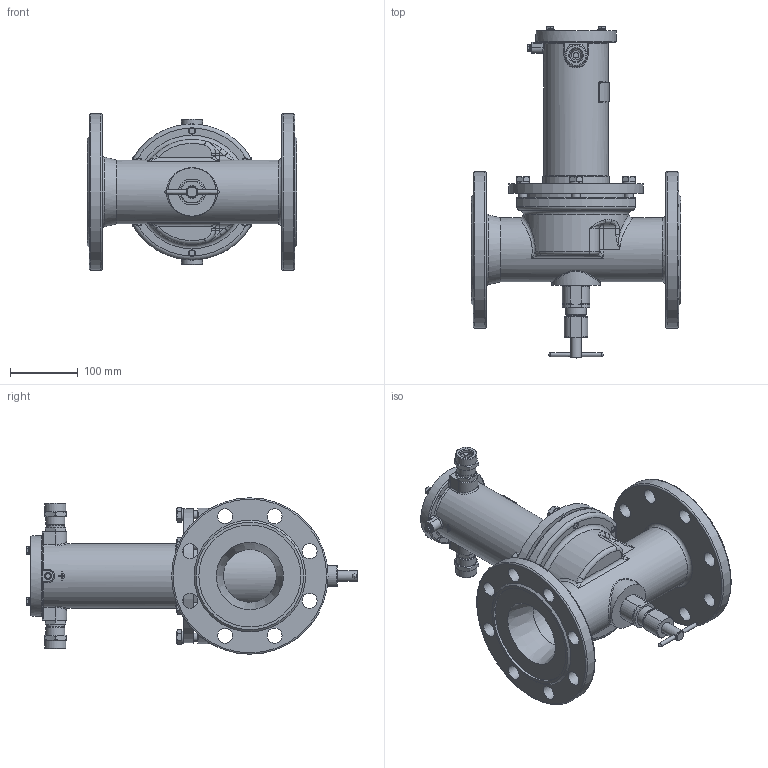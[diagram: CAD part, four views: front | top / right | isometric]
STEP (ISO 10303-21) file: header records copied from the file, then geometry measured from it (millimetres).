
FILE_DESCRIPTION(('STEP AP203'), '1');
FILE_NAME('ÑÅÍÑ DN100PN25.stp', '2018-09-19T08:33:07', ('Îðëîâ Å.Â.'), ('ÎÎÎ ÍÏÏ Ñåíñîð'), 'ASCON STEP Converter 1.3', 'Kompas 3D', '');
FILE_SCHEMA(('CONFIG_CONTROL_DESIGN','SUPPORT_RESOURCE_SCHEMA'));
Length unit declared in the file: millimetre
Products named in the file (1): 2
Bounding box: 308 x 488.2 x 230 mm (x, y, z)
Volume: 3422654.8 mm3; surface area: 748474.3 mm2
Topology: 3 solids, 18 shells, 1978 faces, 5296 edges, 3431 vertices
Faces by surface type: cylinder 1004, plane 723, cone 122, bspline 56, torus 49, extrusion 16, sphere 8
Full cylindrical faces by diameter (mm): 3.5 x2, 4.134 x1, 4.917 x4, 5 x1, 6 x9, 6.5 x4, 8 x4, 10 x1, 10.106 x6, 12 x10, 13 x8, 16 x2, 17 x2, 18 x1, 18.632 x2, 20 x3, 22 x18, 22.376 x2, 23 x1, 23.5 x2, 24 x2, 24.5 x2, 26 x4, 26.376 x2, 27.8 x1, 28 x3, 28.5 x2, 30 x2, 31 x2, 53 x1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
Entity records: 79390 total; most frequent: CARTESIAN_POINT 29013, DIRECTION 10842, ORIENTED_EDGE 10538, EDGE_CURVE 5269, AXIS2_PLACEMENT_3D 4173, VERTEX_POINT 3431, VECTOR 2496, LINE 2480
